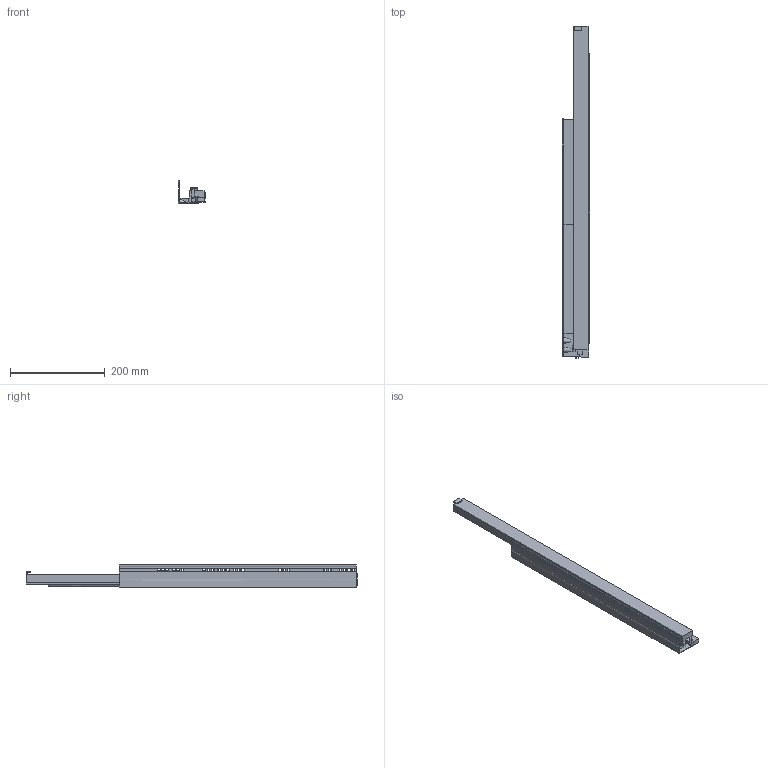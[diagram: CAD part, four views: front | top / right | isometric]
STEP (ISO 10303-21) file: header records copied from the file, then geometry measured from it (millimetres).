
FILE_DESCRIPTION (( 'STEP AP214' ), '1' );
FILE_NAME ('_IMOS_Dynapro_Softclose_D516_NL_700_LI.step', '2010-07-16T06:01:45', ( 'grass' ), ( '' ), 'SwSTEP 2.0', 'SolidWorks 2009', '' );
FILE_SCHEMA (( 'AUTOMOTIVE_DESIGN' ));
Length unit declared in the file: millimetre
Products named in the file (1): _IMOS_Dynapro_Softclose_D516_NL_700_LI
Bounding box: 57.08 x 701.43 x 46.86 mm (x, y, z)
Volume: 595372.7 mm3; surface area: 182619.1 mm2
Topology: 2 solids, 2 shells, 132 faces, 444 edges, 311 vertices
Faces by surface type: plane 77, cylinder 48, bspline 7
Entity records: 5721 total; most frequent: CARTESIAN_POINT 1602, ORIENTED_EDGE 880, DIRECTION 806, EDGE_CURVE 440, VECTOR 320, LINE 320, VERTEX_POINT 311, AXIS2_PLACEMENT_3D 243
